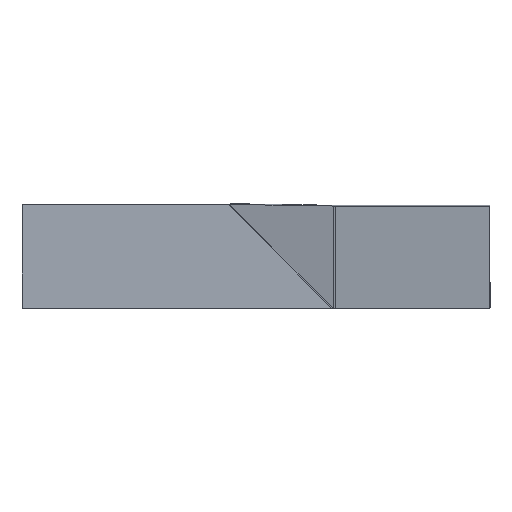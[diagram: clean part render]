
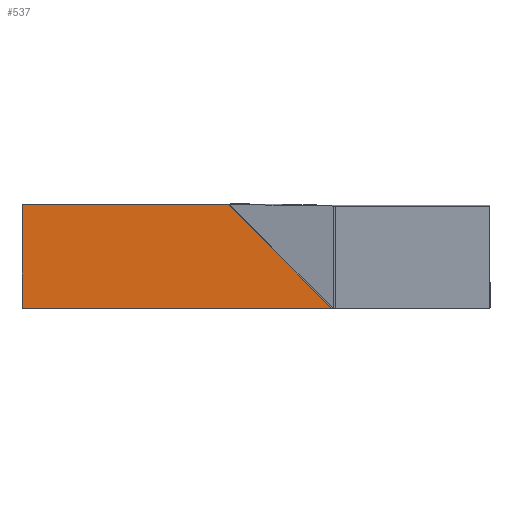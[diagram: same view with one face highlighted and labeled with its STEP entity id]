
A CAD part, top view. The second image highlights one B-rep face of the part: STEP entity #537.
In plain terms, the highlighted planar face has unit normal (0, 0, 1).
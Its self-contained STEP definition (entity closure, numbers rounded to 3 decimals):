
#426=CARTESIAN_POINT('',(99.258,50.,3.));
#427=VERTEX_POINT('',#426);
#464=CARTESIAN_POINT('',(149.258,0.,3.));
#465=VERTEX_POINT('',#464);
#497=CARTESIAN_POINT('',(149.258,0.,3.));
#498=DIRECTION('',(-0.707,0.707,0.0));
#499=VECTOR('',#498,70.711);
#500=LINE('',#497,#499);
#501=EDGE_CURVE('',#465,#427,#500,.T.);
#507=CARTESIAN_POINT('',(67.678,21.628,3.));
#508=DIRECTION('',(0.0,0.0,1.0));
#509=DIRECTION('',(1.0,0.0,0.0));
#510=AXIS2_PLACEMENT_3D('',#507,#508,#509);
#511=PLANE('',#510);
#512=ORIENTED_EDGE('',*,*,#501,.T.);
#513=CARTESIAN_POINT('',(0.,50.0,3.));
#514=VERTEX_POINT('',#513);
#515=CARTESIAN_POINT('',(0.,50.0,3.));
#516=DIRECTION('',(1.0,0.0,0.0));
#517=VECTOR('',#516,99.258);
#518=LINE('',#515,#517);
#519=EDGE_CURVE('',#514,#427,#518,.T.);
#520=ORIENTED_EDGE('',*,*,#519,.F.);
#521=CARTESIAN_POINT('',(0.0,0.0,3.));
#522=VERTEX_POINT('',#521);
#523=CARTESIAN_POINT('',(0.0,0.0,3.));
#524=DIRECTION('',(0.0,1.0,0.0));
#525=VECTOR('',#524,50.0);
#526=LINE('',#523,#525);
#527=EDGE_CURVE('',#522,#514,#526,.T.);
#528=ORIENTED_EDGE('',*,*,#527,.F.);
#529=CARTESIAN_POINT('',(149.258,0.0,3.));
#530=DIRECTION('',(-1.0,0.0,0.0));
#531=VECTOR('',#530,149.258);
#532=LINE('',#529,#531);
#533=EDGE_CURVE('',#465,#522,#532,.T.);
#534=ORIENTED_EDGE('',*,*,#533,.F.);
#535=EDGE_LOOP('',(#512,#520,#528,#534));
#536=FACE_OUTER_BOUND('',#535,.T.);
#537=ADVANCED_FACE('',(#536),#511,.T.);
